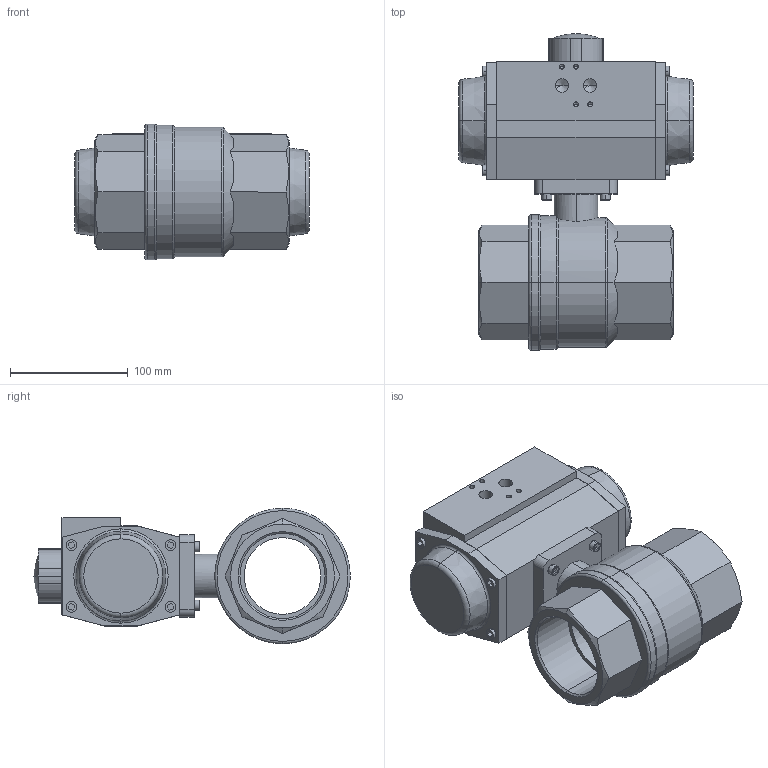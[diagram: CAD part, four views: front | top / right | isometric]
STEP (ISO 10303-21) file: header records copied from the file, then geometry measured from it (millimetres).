
FILE_DESCRIPTION (( 'STEP AP214' ), '1' );
FILE_NAME ('A25-DN65-G2 1_2+AP3.step', '2011-03-03T09:50:04', ( '' ), ( '' ), 'SwSTEP 2.0', 'SolidWorks 2011', '' );
FILE_SCHEMA (( 'AUTOMOTIVE_DESIGN' ));
Length unit declared in the file: millimetre
Products named in the file (4): DIN 912 M5 x 20 --- 20N_DIN 912 M5 x 20 --- 20N; AP3_Default<As Machined>; Ballvalve A25-DN65 G2 1_2; A25-DN65-G2 1_2+AP3
Assembly tree (6 placements, depth 2):
  A25-DN65-G2 1_2+AP3
    DIN 912 M5 x 20 --- 20N_DIN 912 M5 x 20 --- 20N  x4
    AP3_Default<As Machined>
    Ballvalve A25-DN65 G2 1_2
Bounding box: 199 x 268.49 x 115 mm (x, y, z)
Volume: 2289364.2 mm3; surface area: 218970.8 mm2
Topology: 9 solids, 9 shells, 436 faces, 1032 edges, 625 vertices
Faces by surface type: plane 228, cylinder 107, cone 66, torus 33, sphere 2
Entity records: 11491 total; most frequent: CARTESIAN_POINT 2086, DIRECTION 1772, ORIENTED_EDGE 1640, EDGE_CURVE 820, AXIS2_PLACEMENT_3D 626, VERTEX_POINT 526, LINE 520, VECTOR 520
